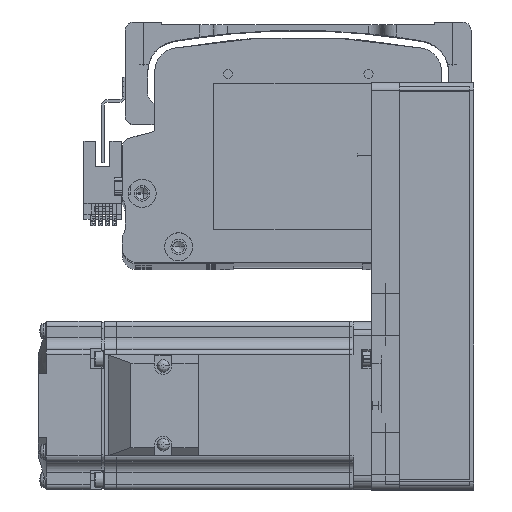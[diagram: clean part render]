
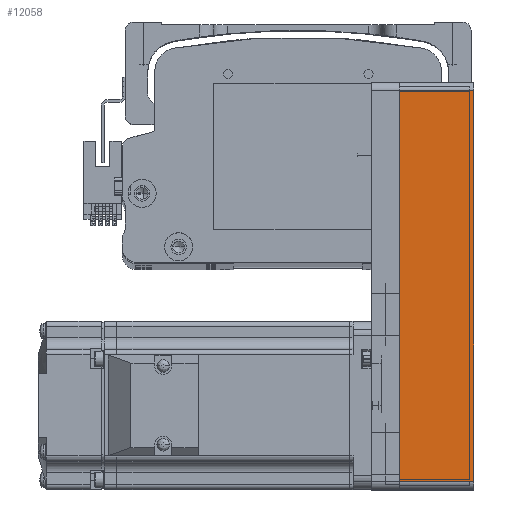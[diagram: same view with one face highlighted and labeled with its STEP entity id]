
A CAD part, top view. The second image highlights one B-rep face of the part: STEP entity #12058.
In plain terms, the highlighted planar face has unit normal (0, 0, 1) as drawn and (0, -1, 0) by its records, which use the part's own axes.
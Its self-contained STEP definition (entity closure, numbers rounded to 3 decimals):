
#4388 = CARTESIAN_POINT ( 'NONE',  ( -69.5, -30., 0. ) ) ;
#6218 = VERTEX_POINT ( 'NONE', #31319 ) ;
#11971 = DIRECTION ( 'NONE',  ( 0., 1., 0. ) ) ;
#12058 = ADVANCED_FACE ( 'NONE', ( #17441 ), #70873, .F. ) ;
#14135 = VERTEX_POINT ( 'NONE', #65412 ) ;
#15172 = VECTOR ( 'NONE', #79167, 1000. ) ;
#15429 = ORIENTED_EDGE ( 'NONE', *, *, #23367, .F. ) ;
#15516 = CARTESIAN_POINT ( 'NONE',  ( 69.5, -30., 0. ) ) ;
#16196 = CARTESIAN_POINT ( 'NONE',  ( 69.5, -30., 26.5 ) ) ;
#17441 = FACE_OUTER_BOUND ( 'NONE', #71493, .T. ) ;
#21972 = EDGE_CURVE ( 'NONE', #37621, #14135, #47425, .T. ) ;
#23367 = EDGE_CURVE ( 'NONE', #6218, #14135, #83042, .T. ) ;
#28196 = LINE ( 'NONE', #34084, #61113 ) ;
#29924 = VECTOR ( 'NONE', #62199, 1000. ) ;
#31319 = CARTESIAN_POINT ( 'NONE',  ( -69.5, -30., 26.5 ) ) ;
#34084 = CARTESIAN_POINT ( 'NONE',  ( -69.5, -30., 26.5 ) ) ;
#36820 = EDGE_CURVE ( 'NONE', #6218, #80319, #28196, .T. ) ;
#37621 = VERTEX_POINT ( 'NONE', #15516 ) ;
#39339 = CARTESIAN_POINT ( 'NONE',  ( 72.5, -30., 0. ) ) ;
#47298 = DIRECTION ( 'NONE',  ( 0., 0., -1. ) ) ;
#47425 = LINE ( 'NONE', #16196, #29924 ) ;
#48367 = ORIENTED_EDGE ( 'NONE', *, *, #21972, .T. ) ;
#49871 = VECTOR ( 'NONE', #61426, 1000. ) ;
#51373 = CARTESIAN_POINT ( 'NONE',  ( 72.5, -30., 26.5 ) ) ;
#55781 = ORIENTED_EDGE ( 'NONE', *, *, #36820, .T. ) ;
#57989 = DIRECTION ( 'NONE',  ( -1., 0., 0. ) ) ;
#61113 = VECTOR ( 'NONE', #47298, 1000. ) ;
#61426 = DIRECTION ( 'NONE',  ( 1., 0., 0. ) ) ;
#62199 = DIRECTION ( 'NONE',  ( 0., 0., 1. ) ) ;
#62707 = AXIS2_PLACEMENT_3D ( 'NONE', #51373, #11971, #57989 ) ;
#65412 = CARTESIAN_POINT ( 'NONE',  ( 69.5, -30., 26.5 ) ) ;
#65452 = EDGE_CURVE ( 'NONE', #80319, #37621, #67341, .T. ) ;
#67341 = LINE ( 'NONE', #39339, #49871 ) ;
#70873 = PLANE ( 'NONE',  #62707 ) ;
#71493 = EDGE_LOOP ( 'NONE', ( #83103, #48367, #15429, #55781 ) ) ;
#72593 = CARTESIAN_POINT ( 'NONE',  ( 72.5, -30., 26.5 ) ) ;
#79167 = DIRECTION ( 'NONE',  ( 1., 0., 0. ) ) ;
#80319 = VERTEX_POINT ( 'NONE', #4388 ) ;
#83042 = LINE ( 'NONE', #72593, #15172 ) ;
#83103 = ORIENTED_EDGE ( 'NONE', *, *, #65452, .T. ) ;
